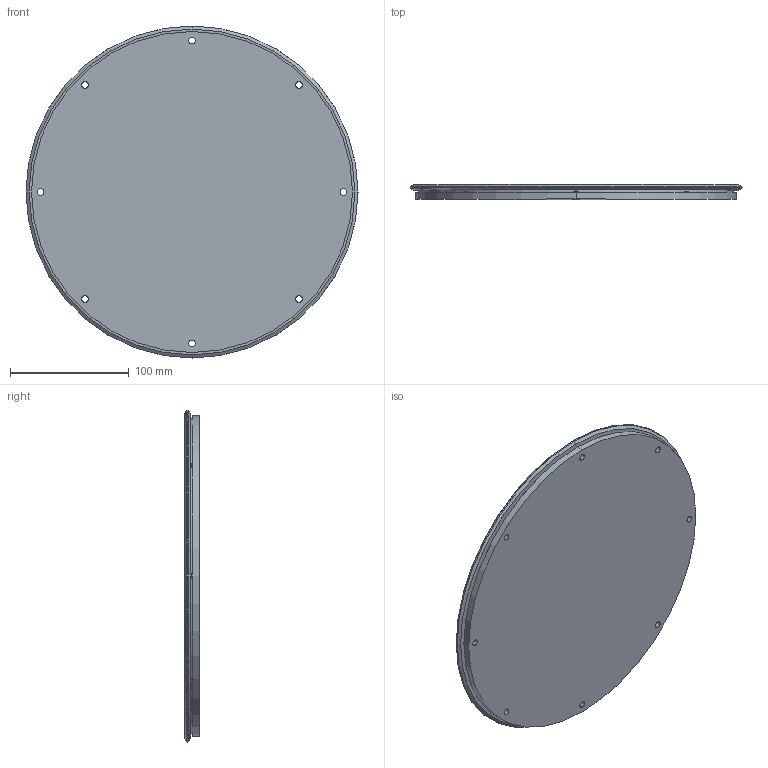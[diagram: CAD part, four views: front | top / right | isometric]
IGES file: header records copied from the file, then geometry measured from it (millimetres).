
Start section: 3D InterOp IGES (v. 2020 1.0.1), Spatial Corp. Copyright (c) 1999-2017.
Global section: file name: rd25_255_.igs; native system: Spatial Corp.; preprocessor: 3D InterOp ACIS/IGES; author: TraceParts; organization: TraceParts S.A.; date: 20220624.041417; units: millimetre
Bounding box: 279.61 x 12.25 x 279.61 mm (x, y, z)
Surface area: 137508.7 mm2 (no closed solid volume)
Topology: 0 solids, 0 shells, 56 faces, 252 edges, 252 vertices
Faces by surface type: revolution 44, extrusion 12
